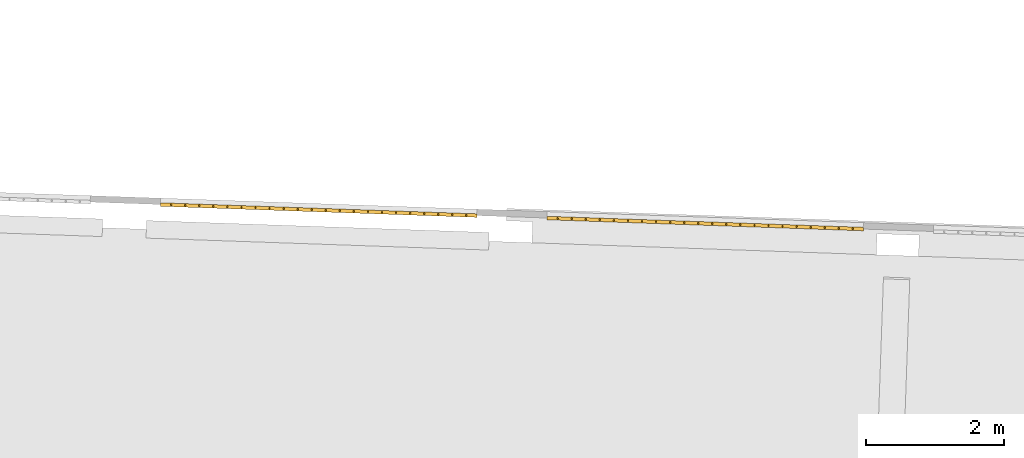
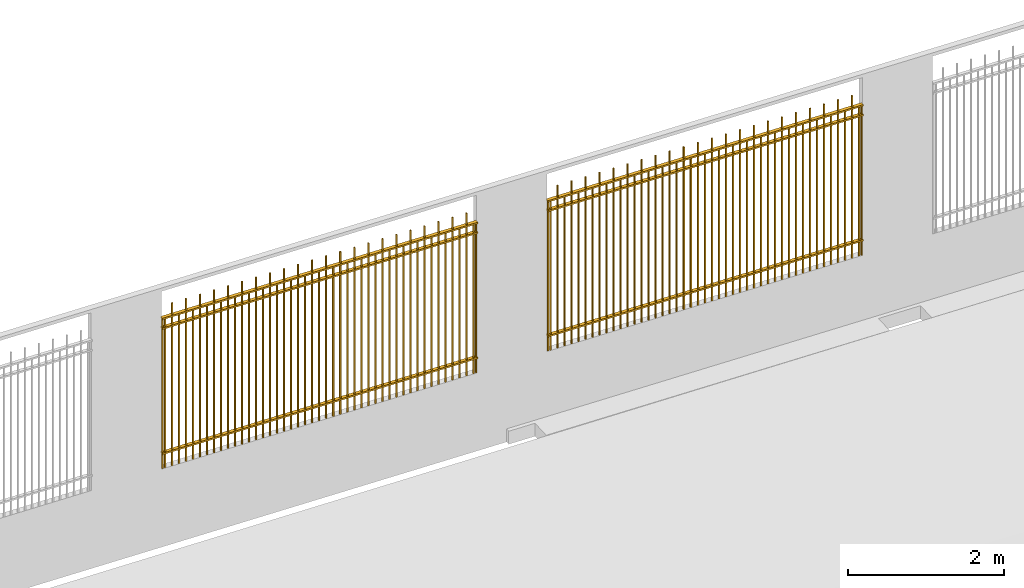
# One storey, part 14 of 17: 2 railings.
"""IFC2X3 building model written with IfcOpenShell, lengths in feet."""

from ifc_helpers import new_model, entity, si_unit, converted_unit, derived_unit, direction, frame, frame_2d, origin, origin_2d_with_axis, place, context, subcontext, project, spatial, rectangle, extrude, element, save


model = new_model("IFC2X3")

# Units and contexts
model_context = context("Model", 3, precision=0.0001, world=origin(), true_north=direction((0.999390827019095, 0.0348994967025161)))
body_context = subcontext(model_context, "Body", "Model", "MODEL_VIEW")
ifc_project = project(units=[converted_unit("LENGTHUNIT", "FOOT", entity("IfcRatioMeasure", 0.3048), si_unit("LENGTHUNIT", "METRE"), dimensions=[1, 0, 0, 0, 0, 0, 0]), converted_unit("AREAUNIT", "SQUARE FOOT", entity("IfcRatioMeasure", 0.09290304), si_unit("AREAUNIT", "SQUARE_METRE"), dimensions=[2, 0, 0, 0, 0, 0, 0]), converted_unit("VOLUMEUNIT", "CUBIC FOOT", entity("IfcRatioMeasure", 0.028316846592), si_unit("VOLUMEUNIT", "CUBIC_METRE"), dimensions=[3, 0, 0, 0, 0, 0, 0]), converted_unit("PLANEANGLEUNIT", "DEGREE", entity("IfcRatioMeasure", 0.0174532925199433), si_unit("PLANEANGLEUNIT", "RADIAN"), dimensions=[0, 0, 0, 0, 0, 0, 0]), si_unit("MASSUNIT", "GRAM", prefix="KILO"), si_unit("TIMEUNIT", "SECOND"), si_unit("FREQUENCYUNIT", "HERTZ"), si_unit("THERMODYNAMICTEMPERATUREUNIT", "DEGREE_CELSIUS"), derived_unit("THERMALTRANSMITTANCEUNIT", [(si_unit("MASSUNIT", "GRAM", prefix="KILO"), 1), (si_unit("THERMODYNAMICTEMPERATUREUNIT", "KELVIN"), -1), (si_unit("TIMEUNIT", "SECOND"), -3)]), derived_unit("VOLUMETRICFLOWRATEUNIT", [(si_unit("LENGTHUNIT", "METRE"), 3), (si_unit("TIMEUNIT", "SECOND"), -1)]), si_unit("ELECTRICCURRENTUNIT", "AMPERE"), si_unit("ELECTRICVOLTAGEUNIT", "VOLT"), si_unit("POWERUNIT", "WATT"), si_unit("FORCEUNIT", "NEWTON"), si_unit("ILLUMINANCEUNIT", "LUX"), si_unit("LUMINOUSFLUXUNIT", "LUMEN"), si_unit("LUMINOUSINTENSITYUNIT", "CANDELA"), derived_unit("USERDEFINED", [(si_unit("MASSUNIT", "GRAM", prefix="KILO"), -1), (si_unit("LENGTHUNIT", "METRE"), -2), (si_unit("TIMEUNIT", "SECOND"), 3), (si_unit("LUMINOUSFLUXUNIT", "LUMEN"), 1)]), derived_unit("LINEARVELOCITYUNIT", [(si_unit("LENGTHUNIT", "METRE"), 1), (si_unit("TIMEUNIT", "SECOND"), -1)]), si_unit("PRESSUREUNIT", "PASCAL"), derived_unit("USERDEFINED", [(si_unit("LENGTHUNIT", "METRE"), -2), (si_unit("MASSUNIT", "GRAM", prefix="KILO"), 1), (si_unit("TIMEUNIT", "SECOND"), -2)])], contexts=[model_context])

# Site, building, storey
site_placement = place(None, frame((892.518771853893, 322.38689265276, 0.00393700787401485), z_axis=(0.0, 0.0, 1.0), x_axis=(0.0348994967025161, 0.999390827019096, 0.0)))
site = spatial("IfcSite", under=ifc_project, at=site_placement, Name="Default", CompositionType="ELEMENT")
building_placement = place(site_placement, origin())
building = spatial("IfcBuilding", under=site, at=building_placement, CompositionType="ELEMENT")
storey_placement = place(building_placement, frame((0.0, 0.0, 557.0)))
storey = spatial("IfcBuildingStorey", under=building, at=storey_placement, Name="Existing Garage - 1st Level", CompositionType="ELEMENT", Elevation=557.0)

# Railings
railing_1_placement = place(storey_placement, origin())
element("IfcRailing", 1, at=railing_1_placement, inside=storey, Name="Railing:Garage Security Grille 8'-4\" High", ObjectType="Railing:Garage Security Grille 8'-4\" High", PredefinedType="NOTDEFINED", context=body_context, shape_type="SweptSolid", body=[
    extrude(rectangle(XDim=0.0625, YDim=0.0625, at=origin_2d_with_axis()), frame((224.1252097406, 308.253536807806, 0.75), z_axis=(0.0, 0.0, 1.0), x_axis=(0.0, 1.0, 0.0)), (0.0, 0.0, 1.0), 7.66666666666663),
    extrude(rectangle(XDim=0.0625, YDim=0.0625, at=origin_2d_with_axis()), frame((224.1252097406, 307.920203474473, 0.75), z_axis=(0.0, 0.0, 1.0), x_axis=(0.0, 1.0, 0.0)), (0.0, 0.0, 1.0), 8.33333333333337),
    extrude(rectangle(XDim=0.0625, YDim=0.0625, at=origin_2d_with_axis()), frame((224.1252097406, 307.586870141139, 0.75), z_axis=(0.0, 0.0, 1.0), x_axis=(0.0, 1.0, 0.0)), (0.0, 0.0, 1.0), 7.66666666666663),
    extrude(rectangle(XDim=0.0625, YDim=0.0625, at=origin_2d_with_axis()), frame((224.1252097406, 307.253536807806, 0.75), z_axis=(0.0, 0.0, 1.0), x_axis=(0.0, 1.0, 0.0)), (0.0, 0.0, 1.0), 8.33333333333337),
    extrude(rectangle(XDim=0.0625, YDim=0.0625, at=origin_2d_with_axis()), frame((224.1252097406, 306.920203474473, 0.75), z_axis=(0.0, 0.0, 1.0), x_axis=(0.0, 1.0, 0.0)), (0.0, 0.0, 1.0), 7.66666666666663),
    extrude(rectangle(XDim=0.0625, YDim=0.0625, at=origin_2d_with_axis()), frame((224.1252097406, 306.586870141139, 0.75), z_axis=(0.0, 0.0, 1.0), x_axis=(0.0, 1.0, 0.0)), (0.0, 0.0, 1.0), 8.33333333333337),
    extrude(rectangle(XDim=0.0625, YDim=0.0625, at=origin_2d_with_axis()), frame((224.1252097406, 306.253536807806, 0.75), z_axis=(0.0, 0.0, 1.0), x_axis=(0.0, 1.0, 0.0)), (0.0, 0.0, 1.0), 7.66666666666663),
    extrude(rectangle(XDim=0.0625, YDim=0.0625, at=origin_2d_with_axis()), frame((224.1252097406, 305.920203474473, 0.75), z_axis=(0.0, 0.0, 1.0), x_axis=(0.0, 1.0, 0.0)), (0.0, 0.0, 1.0), 8.33333333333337),
    extrude(rectangle(XDim=0.0625, YDim=0.0625, at=origin_2d_with_axis()), frame((224.1252097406, 305.586870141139, 0.75), z_axis=(0.0, 0.0, 1.0), x_axis=(0.0, 1.0, 0.0)), (0.0, 0.0, 1.0), 7.66666666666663),
    extrude(rectangle(XDim=0.0625, YDim=0.0625, at=origin_2d_with_axis()), frame((224.1252097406, 305.253536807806, 0.75), z_axis=(0.0, 0.0, 1.0), x_axis=(0.0, 1.0, 0.0)), (0.0, 0.0, 1.0), 8.33333333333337),
    extrude(rectangle(XDim=0.0625, YDim=0.0625, at=origin_2d_with_axis()), frame((224.1252097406, 304.920203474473, 0.75), z_axis=(0.0, 0.0, 1.0), x_axis=(0.0, 1.0, 0.0)), (0.0, 0.0, 1.0), 7.66666666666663),
    extrude(rectangle(XDim=0.0625, YDim=0.0625, at=origin_2d_with_axis()), frame((224.1252097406, 304.586870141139, 0.75), z_axis=(0.0, 0.0, 1.0), x_axis=(0.0, 1.0, 0.0)), (0.0, 0.0, 1.0), 8.33333333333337),
    extrude(rectangle(XDim=0.0625, YDim=0.0625, at=origin_2d_with_axis()), frame((224.1252097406, 304.253536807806, 0.75), z_axis=(0.0, 0.0, 1.0), x_axis=(0.0, 1.0, 0.0)), (0.0, 0.0, 1.0), 7.66666666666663),
    extrude(rectangle(XDim=0.0625, YDim=0.0625, at=origin_2d_with_axis()), frame((224.1252097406, 303.920203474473, 0.75), z_axis=(0.0, 0.0, 1.0), x_axis=(0.0, 1.0, 0.0)), (0.0, 0.0, 1.0), 8.33333333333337),
    extrude(rectangle(XDim=0.0625, YDim=0.0625, at=origin_2d_with_axis()), frame((224.1252097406, 303.586870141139, 0.75), z_axis=(0.0, 0.0, 1.0), x_axis=(0.0, 1.0, 0.0)), (0.0, 0.0, 1.0), 7.66666666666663),
    extrude(rectangle(XDim=0.0625, YDim=0.0625, at=origin_2d_with_axis()), frame((224.1252097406, 303.253536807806, 0.75), z_axis=(0.0, 0.0, 1.0), x_axis=(0.0, 1.0, 0.0)), (0.0, 0.0, 1.0), 8.33333333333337),
    extrude(rectangle(XDim=0.0625, YDim=0.0625, at=origin_2d_with_axis()), frame((224.1252097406, 302.920203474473, 0.75), z_axis=(0.0, 0.0, 1.0), x_axis=(0.0, 1.0, 0.0)), (0.0, 0.0, 1.0), 7.66666666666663),
    extrude(rectangle(XDim=0.0625, YDim=0.0625, at=origin_2d_with_axis()), frame((224.1252097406, 302.586870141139, 0.75), z_axis=(0.0, 0.0, 1.0), x_axis=(0.0, 1.0, 0.0)), (0.0, 0.0, 1.0), 8.33333333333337),
    extrude(rectangle(XDim=0.0625, YDim=0.0625, at=origin_2d_with_axis()), frame((224.1252097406, 302.253536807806, 0.75), z_axis=(0.0, 0.0, 1.0), x_axis=(0.0, 1.0, 0.0)), (0.0, 0.0, 1.0), 7.66666666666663),
    extrude(rectangle(XDim=0.0625, YDim=0.0625, at=origin_2d_with_axis()), frame((224.1252097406, 301.920203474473, 0.75), z_axis=(0.0, 0.0, 1.0), x_axis=(0.0, 1.0, 0.0)), (0.0, 0.0, 1.0), 8.33333333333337),
    extrude(rectangle(XDim=0.0625, YDim=0.0625, at=origin_2d_with_axis()), frame((224.1252097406, 301.586870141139, 0.75), z_axis=(0.0, 0.0, 1.0), x_axis=(0.0, 1.0, 0.0)), (0.0, 0.0, 1.0), 7.66666666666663),
    extrude(rectangle(XDim=0.0625, YDim=0.0625, at=origin_2d_with_axis()), frame((224.1252097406, 301.253536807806, 0.75), z_axis=(0.0, 0.0, 1.0), x_axis=(0.0, 1.0, 0.0)), (0.0, 0.0, 1.0), 8.33333333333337),
    extrude(rectangle(XDim=0.0625, YDim=0.0625, at=origin_2d_with_axis()), frame((224.1252097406, 300.920203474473, 0.75), z_axis=(0.0, 0.0, 1.0), x_axis=(0.0, 1.0, 0.0)), (0.0, 0.0, 1.0), 7.66666666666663),
    extrude(rectangle(XDim=0.0625, YDim=0.0625, at=origin_2d_with_axis()), frame((224.1252097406, 300.586870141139, 0.75), z_axis=(0.0, 0.0, 1.0), x_axis=(0.0, 1.0, 0.0)), (0.0, 0.0, 1.0), 8.33333333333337),
    extrude(rectangle(XDim=0.0625, YDim=0.0625, at=origin_2d_with_axis()), frame((224.1252097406, 300.253536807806, 0.75), z_axis=(0.0, 0.0, 1.0), x_axis=(0.0, 1.0, 0.0)), (0.0, 0.0, 1.0), 7.66666666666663),
    extrude(rectangle(XDim=0.0625, YDim=0.0625, at=origin_2d_with_axis()), frame((224.1252097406, 299.920203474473, 0.75), z_axis=(0.0, 0.0, 1.0), x_axis=(0.0, 1.0, 0.0)), (0.0, 0.0, 1.0), 8.33333333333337),
    extrude(rectangle(XDim=0.0625, YDim=0.0625, at=origin_2d_with_axis()), frame((224.1252097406, 299.586870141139, 0.75), z_axis=(0.0, 0.0, 1.0), x_axis=(0.0, 1.0, 0.0)), (0.0, 0.0, 1.0), 7.66666666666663),
    extrude(rectangle(XDim=0.0625, YDim=0.0625, at=origin_2d_with_axis()), frame((224.1252097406, 299.253536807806, 0.75), z_axis=(0.0, 0.0, 1.0), x_axis=(0.0, 1.0, 0.0)), (0.0, 0.0, 1.0), 8.33333333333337),
    extrude(rectangle(XDim=0.0625, YDim=0.0625, at=origin_2d_with_axis()), frame((224.1252097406, 298.920203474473, 0.75), z_axis=(0.0, 0.0, 1.0), x_axis=(0.0, 1.0, 0.0)), (0.0, 0.0, 1.0), 7.66666666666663),
    extrude(rectangle(XDim=0.0625, YDim=0.0625, at=origin_2d_with_axis()), frame((224.1252097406, 298.586870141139, 0.75), z_axis=(0.0, 0.0, 1.0), x_axis=(0.0, 1.0, 0.0)), (0.0, 0.0, 1.0), 8.33333333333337),
    extrude(rectangle(XDim=0.0625, YDim=0.0625, at=origin_2d_with_axis()), frame((224.1252097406, 298.253536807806, 0.75), z_axis=(0.0, 0.0, 1.0), x_axis=(0.0, 1.0, 0.0)), (0.0, 0.0, 1.0), 7.66666666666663),
    extrude(rectangle(XDim=0.0625, YDim=0.0625, at=origin_2d_with_axis()), frame((224.1252097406, 297.920203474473, 0.75), z_axis=(0.0, 0.0, 1.0), x_axis=(0.0, 1.0, 0.0)), (0.0, 0.0, 1.0), 8.33333333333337),
    extrude(rectangle(XDim=0.0625, YDim=0.0625, at=origin_2d_with_axis()), frame((224.1252097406, 297.586870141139, 0.75), z_axis=(0.0, 0.0, 1.0), x_axis=(0.0, 1.0, 0.0)), (0.0, 0.0, 1.0), 7.66666666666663),
    extrude(rectangle(XDim=0.0625, YDim=0.0625, at=origin_2d_with_axis()), frame((224.1252097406, 297.253536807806, 0.75), z_axis=(0.0, 0.0, 1.0), x_axis=(0.0, 1.0, 0.0)), (0.0, 0.0, 1.0), 8.33333333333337),
    extrude(rectangle(XDim=0.0625, YDim=0.0625, at=origin_2d_with_axis()), frame((224.1252097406, 296.920203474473, 0.75), z_axis=(0.0, 0.0, 1.0), x_axis=(0.0, 1.0, 0.0)), (0.0, 0.0, 1.0), 7.66666666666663),
    extrude(rectangle(XDim=0.0625, YDim=0.0625, at=origin_2d_with_axis()), frame((224.1252097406, 296.586870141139, 0.75), z_axis=(0.0, 0.0, 1.0), x_axis=(0.0, 1.0, 0.0)), (0.0, 0.0, 1.0), 8.33333333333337),
    extrude(rectangle(XDim=0.0625, YDim=0.0625, at=origin_2d_with_axis()), frame((224.1252097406, 296.253536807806, 0.75), z_axis=(0.0, 0.0, 1.0), x_axis=(0.0, 1.0, 0.0)), (0.0, 0.0, 1.0), 7.66666666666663),
    extrude(rectangle(XDim=0.0625, YDim=0.0625, at=origin_2d_with_axis()), frame((224.1252097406, 295.920203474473, 0.75), z_axis=(0.0, 0.0, 1.0), x_axis=(0.0, 1.0, 0.0)), (0.0, 0.0, 1.0), 8.33333333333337),
    extrude(rectangle(XDim=0.0625, YDim=0.0625, at=origin_2d_with_axis()), frame((224.1252097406, 295.586870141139, 0.75), z_axis=(0.0, 0.0, 1.0), x_axis=(0.0, 1.0, 0.0)), (0.0, 0.0, 1.0), 7.66666666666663),
    extrude(rectangle(XDim=0.0625, YDim=0.0625, at=origin_2d_with_axis()), frame((224.1252097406, 295.253536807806, 0.75), z_axis=(0.0, 0.0, 1.0), x_axis=(0.0, 1.0, 0.0)), (0.0, 0.0, 1.0), 8.33333333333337),
    extrude(rectangle(XDim=0.0625, YDim=0.0625, at=origin_2d_with_axis()), frame((224.1252097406, 294.920203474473, 0.75), z_axis=(0.0, 0.0, 1.0), x_axis=(0.0, 1.0, 0.0)), (0.0, 0.0, 1.0), 7.66666666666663),
    extrude(rectangle(XDim=0.0625, YDim=0.0625, at=origin_2d_with_axis()), frame((224.1252097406, 294.586870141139, 0.75), z_axis=(0.0, 0.0, 1.0), x_axis=(0.0, 1.0, 0.0)), (0.0, 0.0, 1.0), 8.33333333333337),
    extrude(rectangle(XDim=0.0625, YDim=0.0625, at=origin_2d_with_axis()), frame((224.1252097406, 294.253536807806, 0.75), z_axis=(0.0, 0.0, 1.0), x_axis=(0.0, 1.0, 0.0)), (0.0, 0.0, 1.0), 7.66666666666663),
    extrude(rectangle(XDim=0.0625, YDim=0.0625, at=origin_2d_with_axis()), frame((224.1252097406, 293.920203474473, 0.75), z_axis=(0.0, 0.0, 1.0), x_axis=(0.0, 1.0, 0.0)), (0.0, 0.0, 1.0), 8.33333333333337),
    extrude(rectangle(XDim=0.0625, YDim=0.0625, at=origin_2d_with_axis()), frame((224.1252097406, 293.586870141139, 0.75), z_axis=(0.0, 0.0, 1.0), x_axis=(0.0, 1.0, 0.0)), (0.0, 0.0, 1.0), 7.66666666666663),
    extrude(rectangle(XDim=0.0625, YDim=0.0625, at=origin_2d_with_axis()), frame((224.1252097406, 308.378536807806, 0.75), z_axis=(0.0, 0.0, 1.0), x_axis=(0.0, 1.0, 0.0)), (0.0, 0.0, 1.0), 7.66666666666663),
    extrude(rectangle(XDim=0.0625, YDim=0.0625, at=origin_2d_with_axis()), frame((224.1252097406, 293.461870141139, 0.75), z_axis=(0.0, 0.0, 1.0), x_axis=(0.0, 1.0, 0.0)), (0.0, 0.0, 1.0), 7.66666666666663),
    extrude(rectangle(XDim=14.9999999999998, YDim=0.166666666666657, at=frame_2d((2.8421709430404e-14, -1.4210854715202e-14), x_axis=(1.0, 0.0))), frame((224.1252097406, 300.920203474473, 8.41666666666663), z_axis=(0.0, 0.0, 1.0), x_axis=(0.0, 1.0, 0.0)), (0.0, 0.0, 1.0), 0.0833333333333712),
    extrude(rectangle(XDim=14.9999999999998, YDim=0.166666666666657, at=frame_2d((2.8421709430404e-14, -1.4210854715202e-14), x_axis=(1.0, 0.0))), frame((224.1252097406, 300.920203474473, 1.5), z_axis=(0.0, 0.0, 1.0), x_axis=(0.0, 1.0, 0.0)), (0.0, 0.0, 1.0), 0.0833333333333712),
    extrude(rectangle(XDim=14.9999999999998, YDim=0.166666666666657, at=frame_2d((2.8421709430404e-14, -1.4210854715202e-14), x_axis=(1.0, 0.0))), frame((224.1252097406, 300.920203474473, 7.91666666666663), z_axis=(0.0, 0.0, 1.0), x_axis=(0.0, 1.0, 0.0)), (0.0, 0.0, 1.0), 0.0833333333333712),
])
railing_2_placement = place(storey_placement, origin())
element("IfcRailing", 2, at=railing_2_placement, inside=storey, Name="Railing:Garage Security Grille 8'-4\" High", ObjectType="Railing:Garage Security Grille 8'-4\" High", PredefinedType="NOTDEFINED", context=body_context, shape_type="SweptSolid", body=[
    extrude(rectangle(XDim=0.0625, YDim=0.0625, at=origin_2d_with_axis()), frame((224.1252097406, 326.586870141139, 0.75), z_axis=(0.0, 0.0, 1.0), x_axis=(0.0, 1.0, 0.0)), (0.0, 0.0, 1.0), 7.66666666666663),
    extrude(rectangle(XDim=0.0625, YDim=0.0625, at=origin_2d_with_axis()), frame((224.1252097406, 326.253536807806, 0.75), z_axis=(0.0, 0.0, 1.0), x_axis=(0.0, 1.0, 0.0)), (0.0, 0.0, 1.0), 8.33333333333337),
    extrude(rectangle(XDim=0.0625, YDim=0.0625, at=origin_2d_with_axis()), frame((224.1252097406, 325.920203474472, 0.75), z_axis=(0.0, 0.0, 1.0), x_axis=(0.0, 1.0, 0.0)), (0.0, 0.0, 1.0), 7.66666666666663),
    extrude(rectangle(XDim=0.0625, YDim=0.0625, at=origin_2d_with_axis()), frame((224.1252097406, 325.586870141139, 0.75), z_axis=(0.0, 0.0, 1.0), x_axis=(0.0, 1.0, 0.0)), (0.0, 0.0, 1.0), 8.33333333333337),
    extrude(rectangle(XDim=0.0625, YDim=0.0625, at=origin_2d_with_axis()), frame((224.1252097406, 325.253536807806, 0.75), z_axis=(0.0, 0.0, 1.0), x_axis=(0.0, 1.0, 0.0)), (0.0, 0.0, 1.0), 7.66666666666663),
    extrude(rectangle(XDim=0.0625, YDim=0.0625, at=origin_2d_with_axis()), frame((224.1252097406, 324.920203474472, 0.75), z_axis=(0.0, 0.0, 1.0), x_axis=(0.0, 1.0, 0.0)), (0.0, 0.0, 1.0), 8.33333333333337),
    extrude(rectangle(XDim=0.0625, YDim=0.0625, at=origin_2d_with_axis()), frame((224.1252097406, 324.586870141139, 0.75), z_axis=(0.0, 0.0, 1.0), x_axis=(0.0, 1.0, 0.0)), (0.0, 0.0, 1.0), 7.66666666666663),
    extrude(rectangle(XDim=0.0625, YDim=0.0625, at=origin_2d_with_axis()), frame((224.1252097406, 324.253536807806, 0.75), z_axis=(0.0, 0.0, 1.0), x_axis=(0.0, 1.0, 0.0)), (0.0, 0.0, 1.0), 8.33333333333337),
    extrude(rectangle(XDim=0.0625, YDim=0.0625, at=origin_2d_with_axis()), frame((224.1252097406, 323.920203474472, 0.75), z_axis=(0.0, 0.0, 1.0), x_axis=(0.0, 1.0, 0.0)), (0.0, 0.0, 1.0), 7.66666666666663),
    extrude(rectangle(XDim=0.0625, YDim=0.0625, at=origin_2d_with_axis()), frame((224.1252097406, 323.586870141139, 0.75), z_axis=(0.0, 0.0, 1.0), x_axis=(0.0, 1.0, 0.0)), (0.0, 0.0, 1.0), 8.33333333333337),
    extrude(rectangle(XDim=0.0625, YDim=0.0625, at=origin_2d_with_axis()), frame((224.1252097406, 323.253536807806, 0.75), z_axis=(0.0, 0.0, 1.0), x_axis=(0.0, 1.0, 0.0)), (0.0, 0.0, 1.0), 7.66666666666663),
    extrude(rectangle(XDim=0.0625, YDim=0.0625, at=origin_2d_with_axis()), frame((224.1252097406, 322.920203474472, 0.75), z_axis=(0.0, 0.0, 1.0), x_axis=(0.0, 1.0, 0.0)), (0.0, 0.0, 1.0), 8.33333333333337),
    extrude(rectangle(XDim=0.0625, YDim=0.0625, at=origin_2d_with_axis()), frame((224.1252097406, 322.586870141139, 0.75), z_axis=(0.0, 0.0, 1.0), x_axis=(0.0, 1.0, 0.0)), (0.0, 0.0, 1.0), 7.66666666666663),
    extrude(rectangle(XDim=0.0625, YDim=0.0625, at=origin_2d_with_axis()), frame((224.1252097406, 322.253536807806, 0.75), z_axis=(0.0, 0.0, 1.0), x_axis=(0.0, 1.0, 0.0)), (0.0, 0.0, 1.0), 8.33333333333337),
    extrude(rectangle(XDim=0.0625, YDim=0.0625, at=origin_2d_with_axis()), frame((224.1252097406, 321.920203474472, 0.75), z_axis=(0.0, 0.0, 1.0), x_axis=(0.0, 1.0, 0.0)), (0.0, 0.0, 1.0), 7.66666666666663),
    extrude(rectangle(XDim=0.0625, YDim=0.0625, at=origin_2d_with_axis()), frame((224.1252097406, 321.586870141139, 0.75), z_axis=(0.0, 0.0, 1.0), x_axis=(0.0, 1.0, 0.0)), (0.0, 0.0, 1.0), 8.33333333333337),
    extrude(rectangle(XDim=0.0625, YDim=0.0625, at=origin_2d_with_axis()), frame((224.1252097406, 321.253536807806, 0.75), z_axis=(0.0, 0.0, 1.0), x_axis=(0.0, 1.0, 0.0)), (0.0, 0.0, 1.0), 7.66666666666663),
    extrude(rectangle(XDim=0.0625, YDim=0.0625, at=origin_2d_with_axis()), frame((224.1252097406, 320.920203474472, 0.75), z_axis=(0.0, 0.0, 1.0), x_axis=(0.0, 1.0, 0.0)), (0.0, 0.0, 1.0), 8.33333333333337),
    extrude(rectangle(XDim=0.0625, YDim=0.0625, at=origin_2d_with_axis()), frame((224.1252097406, 320.586870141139, 0.75), z_axis=(0.0, 0.0, 1.0), x_axis=(0.0, 1.0, 0.0)), (0.0, 0.0, 1.0), 7.66666666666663),
    extrude(rectangle(XDim=0.0625, YDim=0.0625, at=origin_2d_with_axis()), frame((224.1252097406, 320.253536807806, 0.75), z_axis=(0.0, 0.0, 1.0), x_axis=(0.0, 1.0, 0.0)), (0.0, 0.0, 1.0), 8.33333333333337),
    extrude(rectangle(XDim=0.0625, YDim=0.0625, at=origin_2d_with_axis()), frame((224.1252097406, 319.920203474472, 0.75), z_axis=(0.0, 0.0, 1.0), x_axis=(0.0, 1.0, 0.0)), (0.0, 0.0, 1.0), 7.66666666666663),
    extrude(rectangle(XDim=0.0625, YDim=0.0625, at=origin_2d_with_axis()), frame((224.1252097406, 319.586870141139, 0.75), z_axis=(0.0, 0.0, 1.0), x_axis=(0.0, 1.0, 0.0)), (0.0, 0.0, 1.0), 8.33333333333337),
    extrude(rectangle(XDim=0.0625, YDim=0.0625, at=origin_2d_with_axis()), frame((224.1252097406, 319.253536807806, 0.75), z_axis=(0.0, 0.0, 1.0), x_axis=(0.0, 1.0, 0.0)), (0.0, 0.0, 1.0), 7.66666666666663),
    extrude(rectangle(XDim=0.0625, YDim=0.0625, at=origin_2d_with_axis()), frame((224.1252097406, 318.920203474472, 0.75), z_axis=(0.0, 0.0, 1.0), x_axis=(0.0, 1.0, 0.0)), (0.0, 0.0, 1.0), 8.33333333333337),
    extrude(rectangle(XDim=0.0625, YDim=0.0625, at=origin_2d_with_axis()), frame((224.1252097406, 318.586870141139, 0.75), z_axis=(0.0, 0.0, 1.0), x_axis=(0.0, 1.0, 0.0)), (0.0, 0.0, 1.0), 7.66666666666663),
    extrude(rectangle(XDim=0.0625, YDim=0.0625, at=origin_2d_with_axis()), frame((224.1252097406, 318.253536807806, 0.75), z_axis=(0.0, 0.0, 1.0), x_axis=(0.0, 1.0, 0.0)), (0.0, 0.0, 1.0), 8.33333333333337),
    extrude(rectangle(XDim=0.0625, YDim=0.0625, at=origin_2d_with_axis()), frame((224.1252097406, 317.920203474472, 0.75), z_axis=(0.0, 0.0, 1.0), x_axis=(0.0, 1.0, 0.0)), (0.0, 0.0, 1.0), 7.66666666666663),
    extrude(rectangle(XDim=0.0625, YDim=0.0625, at=origin_2d_with_axis()), frame((224.1252097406, 317.586870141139, 0.75), z_axis=(0.0, 0.0, 1.0), x_axis=(0.0, 1.0, 0.0)), (0.0, 0.0, 1.0), 8.33333333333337),
    extrude(rectangle(XDim=0.0625, YDim=0.0625, at=origin_2d_with_axis()), frame((224.1252097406, 317.253536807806, 0.75), z_axis=(0.0, 0.0, 1.0), x_axis=(0.0, 1.0, 0.0)), (0.0, 0.0, 1.0), 7.66666666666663),
    extrude(rectangle(XDim=0.0625, YDim=0.0625, at=origin_2d_with_axis()), frame((224.1252097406, 316.920203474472, 0.75), z_axis=(0.0, 0.0, 1.0), x_axis=(0.0, 1.0, 0.0)), (0.0, 0.0, 1.0), 8.33333333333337),
    extrude(rectangle(XDim=0.0625, YDim=0.0625, at=origin_2d_with_axis()), frame((224.1252097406, 316.586870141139, 0.75), z_axis=(0.0, 0.0, 1.0), x_axis=(0.0, 1.0, 0.0)), (0.0, 0.0, 1.0), 7.66666666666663),
    extrude(rectangle(XDim=0.0625, YDim=0.0625, at=origin_2d_with_axis()), frame((224.1252097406, 316.253536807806, 0.75), z_axis=(0.0, 0.0, 1.0), x_axis=(0.0, 1.0, 0.0)), (0.0, 0.0, 1.0), 8.33333333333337),
    extrude(rectangle(XDim=0.0625, YDim=0.0625, at=origin_2d_with_axis()), frame((224.1252097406, 315.920203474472, 0.75), z_axis=(0.0, 0.0, 1.0), x_axis=(0.0, 1.0, 0.0)), (0.0, 0.0, 1.0), 7.66666666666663),
    extrude(rectangle(XDim=0.0625, YDim=0.0625, at=origin_2d_with_axis()), frame((224.1252097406, 315.586870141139, 0.75), z_axis=(0.0, 0.0, 1.0), x_axis=(0.0, 1.0, 0.0)), (0.0, 0.0, 1.0), 8.33333333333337),
    extrude(rectangle(XDim=0.0625, YDim=0.0625, at=origin_2d_with_axis()), frame((224.1252097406, 315.253536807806, 0.75), z_axis=(0.0, 0.0, 1.0), x_axis=(0.0, 1.0, 0.0)), (0.0, 0.0, 1.0), 7.66666666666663),
    extrude(rectangle(XDim=0.0625, YDim=0.0625, at=origin_2d_with_axis()), frame((224.1252097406, 314.920203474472, 0.75), z_axis=(0.0, 0.0, 1.0), x_axis=(0.0, 1.0, 0.0)), (0.0, 0.0, 1.0), 8.33333333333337),
    extrude(rectangle(XDim=0.0625, YDim=0.0625, at=origin_2d_with_axis()), frame((224.1252097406, 314.586870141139, 0.75), z_axis=(0.0, 0.0, 1.0), x_axis=(0.0, 1.0, 0.0)), (0.0, 0.0, 1.0), 7.66666666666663),
    extrude(rectangle(XDim=0.0625, YDim=0.0625, at=origin_2d_with_axis()), frame((224.1252097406, 314.253536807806, 0.75), z_axis=(0.0, 0.0, 1.0), x_axis=(0.0, 1.0, 0.0)), (0.0, 0.0, 1.0), 8.33333333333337),
    extrude(rectangle(XDim=0.0625, YDim=0.0625, at=origin_2d_with_axis()), frame((224.1252097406, 313.920203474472, 0.75), z_axis=(0.0, 0.0, 1.0), x_axis=(0.0, 1.0, 0.0)), (0.0, 0.0, 1.0), 7.66666666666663),
    extrude(rectangle(XDim=0.0625, YDim=0.0625, at=origin_2d_with_axis()), frame((224.1252097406, 313.586870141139, 0.75), z_axis=(0.0, 0.0, 1.0), x_axis=(0.0, 1.0, 0.0)), (0.0, 0.0, 1.0), 8.33333333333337),
    extrude(rectangle(XDim=0.0625, YDim=0.0625, at=origin_2d_with_axis()), frame((224.1252097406, 313.253536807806, 0.75), z_axis=(0.0, 0.0, 1.0), x_axis=(0.0, 1.0, 0.0)), (0.0, 0.0, 1.0), 7.66666666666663),
    extrude(rectangle(XDim=0.0625, YDim=0.0625, at=origin_2d_with_axis()), frame((224.1252097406, 312.920203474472, 0.75), z_axis=(0.0, 0.0, 1.0), x_axis=(0.0, 1.0, 0.0)), (0.0, 0.0, 1.0), 8.33333333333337),
    extrude(rectangle(XDim=0.0625, YDim=0.0625, at=origin_2d_with_axis()), frame((224.1252097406, 312.586870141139, 0.75), z_axis=(0.0, 0.0, 1.0), x_axis=(0.0, 1.0, 0.0)), (0.0, 0.0, 1.0), 7.66666666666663),
    extrude(rectangle(XDim=0.0625, YDim=0.0625, at=origin_2d_with_axis()), frame((224.1252097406, 312.253536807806, 0.75), z_axis=(0.0, 0.0, 1.0), x_axis=(0.0, 1.0, 0.0)), (0.0, 0.0, 1.0), 8.33333333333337),
    extrude(rectangle(XDim=0.0625, YDim=0.0625, at=origin_2d_with_axis()), frame((224.1252097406, 311.920203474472, 0.75), z_axis=(0.0, 0.0, 1.0), x_axis=(0.0, 1.0, 0.0)), (0.0, 0.0, 1.0), 7.66666666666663),
    extrude(rectangle(XDim=0.0625, YDim=0.0625, at=origin_2d_with_axis()), frame((224.1252097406, 326.711870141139, 0.75), z_axis=(0.0, 0.0, 1.0), x_axis=(0.0, 1.0, 0.0)), (0.0, 0.0, 1.0), 7.66666666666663),
    extrude(rectangle(XDim=0.0625, YDim=0.0625, at=origin_2d_with_axis()), frame((224.1252097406, 311.795203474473, 0.75), z_axis=(0.0, 0.0, 1.0), x_axis=(0.0, 1.0, 0.0)), (0.0, 0.0, 1.0), 7.66666666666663),
    extrude(rectangle(XDim=14.9999999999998, YDim=0.166666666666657, at=frame_2d((-2.8421709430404e-14, -1.4210854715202e-14), x_axis=(1.0, 0.0))), frame((224.1252097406, 319.253536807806, 8.41666666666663), z_axis=(0.0, 0.0, 1.0), x_axis=(0.0, 1.0, 0.0)), (0.0, 0.0, 1.0), 0.0833333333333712),
    extrude(rectangle(XDim=14.9999999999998, YDim=0.166666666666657, at=frame_2d((-2.8421709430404e-14, -1.4210854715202e-14), x_axis=(1.0, 0.0))), frame((224.1252097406, 319.253536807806, 1.5), z_axis=(0.0, 0.0, 1.0), x_axis=(0.0, 1.0, 0.0)), (0.0, 0.0, 1.0), 0.0833333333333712),
    extrude(rectangle(XDim=14.9999999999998, YDim=0.166666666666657, at=frame_2d((-2.8421709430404e-14, -1.4210854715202e-14), x_axis=(1.0, 0.0))), frame((224.1252097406, 319.253536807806, 7.91666666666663), z_axis=(0.0, 0.0, 1.0), x_axis=(0.0, 1.0, 0.0)), (0.0, 0.0, 1.0), 0.0833333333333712),
])

save(model, "model.ifc")
